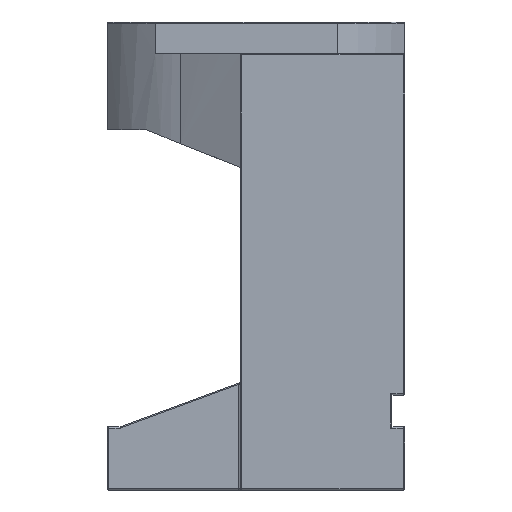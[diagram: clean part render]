
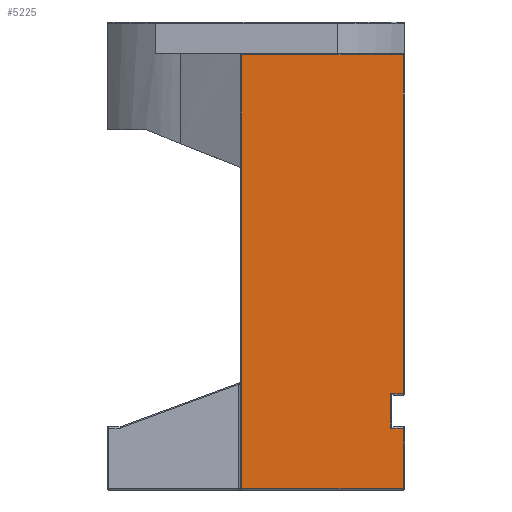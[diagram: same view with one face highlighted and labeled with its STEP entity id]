
A CAD part, left-side view. The second image highlights one B-rep face of the part: STEP entity #5225.
In plain terms, the highlighted planar face has unit normal (-1, 0, 0).
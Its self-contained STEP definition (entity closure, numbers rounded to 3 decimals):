
#105 = CARTESIAN_POINT ( 'NONE',  ( -32.5, -24.8, 5. ) ) ;
#116 = CARTESIAN_POINT ( 'NONE',  ( -32.5, -24.8, 4.8 ) ) ;
#137 = EDGE_CURVE ( 'NONE', #4991, #1706, #5205, .T. ) ;
#574 = CARTESIAN_POINT ( 'NONE',  ( -32.5, -25., -4.8 ) ) ;
#734 = VECTOR ( 'NONE', #3889, 1000. ) ;
#903 = VERTEX_POINT ( 'NONE', #3402 ) ;
#1091 = EDGE_CURVE ( 'NONE', #1527, #1448, #5476, .T. ) ;
#1190 = EDGE_CURVE ( 'NONE', #1706, #1480, #5534, .T. ) ;
#1211 = CARTESIAN_POINT ( 'NONE',  ( -32.5, -22.8, 4.8 ) ) ;
#1213 = AXIS2_PLACEMENT_3D ( 'NONE', #5617, #5553, #5545 ) ;
#1257 = VERTEX_POINT ( 'NONE', #4914 ) ;
#1448 = VERTEX_POINT ( 'NONE', #1211 ) ;
#1480 = VERTEX_POINT ( 'NONE', #1626 ) ;
#1487 = VECTOR ( 'NONE', #3813, 1000. ) ;
#1516 = VECTOR ( 'NONE', #2992, 1000. ) ;
#1527 = VERTEX_POINT ( 'NONE', #116 ) ;
#1603 = EDGE_LOOP ( 'NONE', ( #4486, #5561, #2945, #2656, #3557, #3289, #3016, #3955 ) ) ;
#1626 = CARTESIAN_POINT ( 'NONE',  ( -32.5, 0.8, -4.8 ) ) ;
#1706 = VERTEX_POINT ( 'NONE', #2012 ) ;
#1711 = VERTEX_POINT ( 'NONE', #2510 ) ;
#1753 = CARTESIAN_POINT ( 'NONE',  ( -32.5, -25., 10.2 ) ) ;
#2012 = CARTESIAN_POINT ( 'NONE',  ( -32.5, 0.8, 63.8 ) ) ;
#2157 = VECTOR ( 'NONE', #4499, 1000. ) ;
#2226 = DIRECTION ( 'NONE',  ( 0., -1., 0. ) ) ;
#2263 = VECTOR ( 'NONE', #5108, 1000. ) ;
#2336 = DIRECTION ( 'NONE',  ( 0., 1., 0. ) ) ;
#2510 = CARTESIAN_POINT ( 'NONE',  ( -32.5, -24.8, 10.2 ) ) ;
#2604 = EDGE_CURVE ( 'NONE', #1480, #903, #5101, .T. ) ;
#2640 = CARTESIAN_POINT ( 'NONE',  ( -32.5, -25., 4.8 ) ) ;
#2656 = ORIENTED_EDGE ( 'NONE', *, *, #4449, .T. ) ;
#2751 = VECTOR ( 'NONE', #2226, 1000. ) ;
#2823 = LINE ( 'NONE', #105, #2263 ) ;
#2886 = EDGE_CURVE ( 'NONE', #903, #1527, #2823, .T. ) ;
#2894 = LINE ( 'NONE', #3875, #1516 ) ;
#2945 = ORIENTED_EDGE ( 'NONE', *, *, #3468, .T. ) ;
#2992 = DIRECTION ( 'NONE',  ( 0., 0., 1. ) ) ;
#3016 = ORIENTED_EDGE ( 'NONE', *, *, #1190, .T. ) ;
#3289 = ORIENTED_EDGE ( 'NONE', *, *, #137, .T. ) ;
#3333 = LINE ( 'NONE', #4560, #2157 ) ;
#3402 = CARTESIAN_POINT ( 'NONE',  ( -32.5, -24.8, -4.8 ) ) ;
#3468 = EDGE_CURVE ( 'NONE', #1448, #1257, #2894, .T. ) ;
#3557 = ORIENTED_EDGE ( 'NONE', *, *, #5391, .T. ) ;
#3609 = VECTOR ( 'NONE', #2336, 1000. ) ;
#3813 = DIRECTION ( 'NONE',  ( 0., 1., 0. ) ) ;
#3828 = CARTESIAN_POINT ( 'NONE',  ( -32.5, -25., 63.8 ) ) ;
#3875 = CARTESIAN_POINT ( 'NONE',  ( -32.5, -22.8, 10. ) ) ;
#3889 = DIRECTION ( 'NONE',  ( 0., 0., -1. ) ) ;
#3950 = CARTESIAN_POINT ( 'NONE',  ( -32.5, 0.8, -5. ) ) ;
#3955 = ORIENTED_EDGE ( 'NONE', *, *, #2604, .T. ) ;
#3963 = LINE ( 'NONE', #1753, #5227 ) ;
#4449 = EDGE_CURVE ( 'NONE', #1257, #1711, #3963, .T. ) ;
#4486 = ORIENTED_EDGE ( 'NONE', *, *, #2886, .T. ) ;
#4499 = DIRECTION ( 'NONE',  ( 0., 0., 1. ) ) ;
#4560 = CARTESIAN_POINT ( 'NONE',  ( -32.5, -24.8, 64. ) ) ;
#4668 = DIRECTION ( 'NONE',  ( 0., -1., 0. ) ) ;
#4733 = CARTESIAN_POINT ( 'NONE',  ( -32.5, -24.8, 63.8 ) ) ;
#4914 = CARTESIAN_POINT ( 'NONE',  ( -32.5, -22.8, 10.2 ) ) ;
#4991 = VERTEX_POINT ( 'NONE', #4733 ) ;
#5101 = LINE ( 'NONE', #574, #2751 ) ;
#5108 = DIRECTION ( 'NONE',  ( 0., 0., 1. ) ) ;
#5205 = LINE ( 'NONE', #3828, #1487 ) ;
#5225 = ADVANCED_FACE ( 'NONE', ( #5908 ), #5562, .T. ) ;
#5227 = VECTOR ( 'NONE', #4668, 1000. ) ;
#5391 = EDGE_CURVE ( 'NONE', #1711, #4991, #3333, .T. ) ;
#5476 = LINE ( 'NONE', #2640, #3609 ) ;
#5534 = LINE ( 'NONE', #3950, #734 ) ;
#5545 = DIRECTION ( 'NONE',  ( 0., 1., 0. ) ) ;
#5553 = DIRECTION ( 'NONE',  ( -1., 0., 0. ) ) ;
#5561 = ORIENTED_EDGE ( 'NONE', *, *, #1091, .T. ) ;
#5562 = PLANE ( 'NONE',  #1213 ) ;
#5617 = CARTESIAN_POINT ( 'NONE',  ( -32.5, -25., 64. ) ) ;
#5908 = FACE_OUTER_BOUND ( 'NONE', #1603, .T. ) ;
